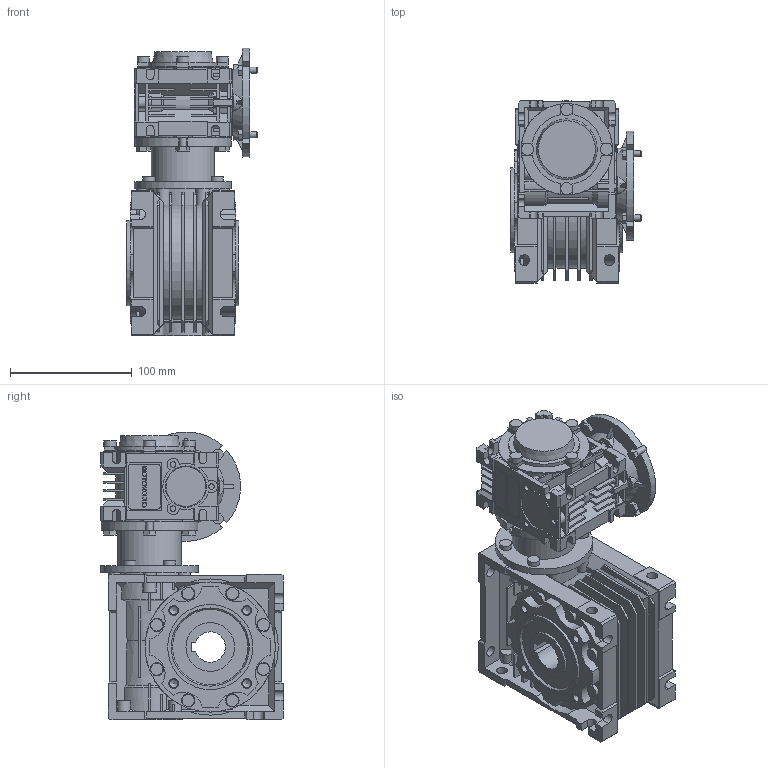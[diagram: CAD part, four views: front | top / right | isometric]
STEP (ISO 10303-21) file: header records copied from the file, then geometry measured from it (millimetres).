
FILE_DESCRIPTION(/* description */ ('STEP AP214'),/* implementation_level */ '2;1');
FILE_NAME(/* name */ 'NMRV-NMRV030-050100 (10x10)313125NO11NO00NO---(--------)',/* time_stamp */ '2024-10-22T11:03:49+02:00',/* author */ ('License CC BY-ND 4.0'),/* organization */ ('CADENAS'),/* preprocessor_version */ 'ST-DEVELOPER v19.3',/* originating_system */ 'PARTsolutions',/* authorisation */ ' ');
FILE_SCHEMA (('AUTOMOTIVE_DESIGN {1 0 10303 214 3 1 1}'));
Length unit declared in the file: millimetre
Products named in the file (13): NMRV-NMRV030-050100 (10x10)313125NO11NO00NO---(--------); 030-050100 (10x10)31314125No11No00NO---(--------)-d; 030-050100 (10x10)313125No11No00NO---d1; 030-050100 (10x10)313125No11No00T0631-d1; Gear unit 50; 050-25 (92)alc-n; VB 050-14 (14); Gear unit 30; 030-14 (63)alc-n; FT 030-050; Hollow shaft 30; VB 030-11 (11); 30-63 B14
Assembly tree (13 placements, depth 2):
  NMRV-NMRV030-050100 (10x10)313125NO11NO00NO---(--------)
    030-050100 (10x10)31314125No11No00NO---(--------)-d
    030-050100 (10x10)313125No11No00NO---d1
    030-050100 (10x10)313125No11No00T0631-d1  x2
    Gear unit 50
    050-25 (92)alc-n
    VB 050-14 (14)
    Gear unit 30
    030-14 (63)alc-n
    FT 030-050
    Hollow shaft 30
    VB 030-11 (11)
    30-63 B14
Bounding box: 107 x 150 x 236.85 mm (x, y, z)
Volume: 1513198.6 mm3; surface area: 352647.9 mm2
Topology: 9 solids, 21 shells, 1688 faces, 4464 edges, 2908 vertices
Faces by surface type: plane 1236, cylinder 354, cone 96, torus 2
Full cylindrical faces by diameter (mm): 3.545 x3, 3.775 x3, 4.65 x3, 4.917 x8, 5 x4, 5.55 x4, 6 x4, 6.647 x8, 8.8 x8, 10 x20, 16 x1, 19 x2, 24.8 x2, 28 x2, 30 x2, 34 x1, 37 x1, 38 x1, 40 x2, 47 x1, 52 x1, 55 x3, 60 x1, 70 x2, 75 x1, 80 x1, 107 x1
Entity records: 63038 total; most frequent: CARTESIAN_POINT 9601, ORIENTED_EDGE 8582, DIRECTION 8509, EDGE_CURVE 4291, LINE 3077, VECTOR 3077, VERTEX_POINT 2885, AXIS2_PLACEMENT_3D 2716
